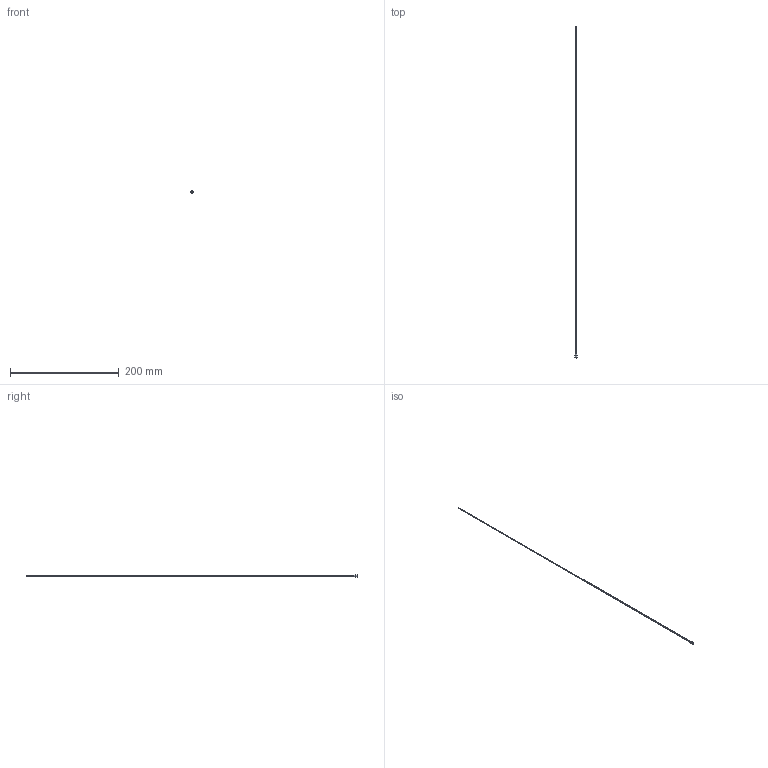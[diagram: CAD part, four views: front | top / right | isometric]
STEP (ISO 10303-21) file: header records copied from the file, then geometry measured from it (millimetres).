
FILE_DESCRIPTION(/* description */ (''),/* implementation_level */ '2;1');
FILE_NAME(/* name */ 'C:/Users/drich/Desktop/R072T-24 v1.step',/* time_stamp */ '2019-12-30T13:10:24-06:00',/* author */ (''),/* organization */ (''),/* preprocessor_version */ 'ST-DEVELOPER v18',/* originating_system */ 'Autodesk Translation Framework v8.12.0.6',/* authorisation */ '');
FILE_SCHEMA (('AUTOMOTIVE_DESIGN { 1 0 10303 214 3 1 1 }'));
Length unit declared in the file: inch
Products named in the file (1): R072T-24
Bounding box: 4.62 x 609.6 x 4.62 mm (x, y, z)
Volume: 539.6 mm3; surface area: 6517.2 mm2
Topology: 1 solids, 1 shells, 19 faces, 47 edges, 33 vertices
Faces by surface type: plane 11, cylinder 4, torus 3, cone 1
Full cylindrical faces by diameter (mm): 1.524 x1, 1.829 x1, 3.096 x1, 4.623 x1
Entity records: 624 total; most frequent: DIRECTION 111, CARTESIAN_POINT 100, ORIENTED_EDGE 94, EDGE_CURVE 47, AXIS2_PLACEMENT_3D 44, VERTEX_POINT 33, EDGE_LOOP 24, CIRCLE 24
